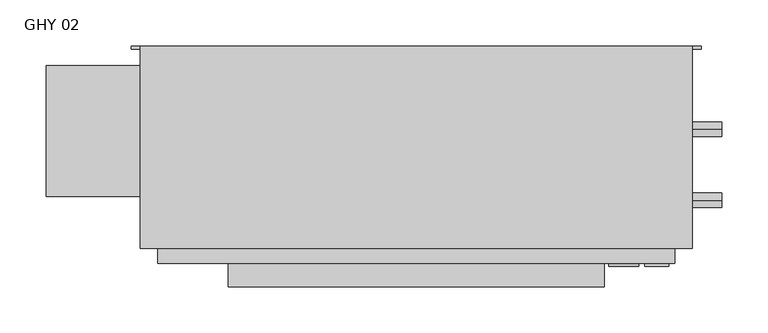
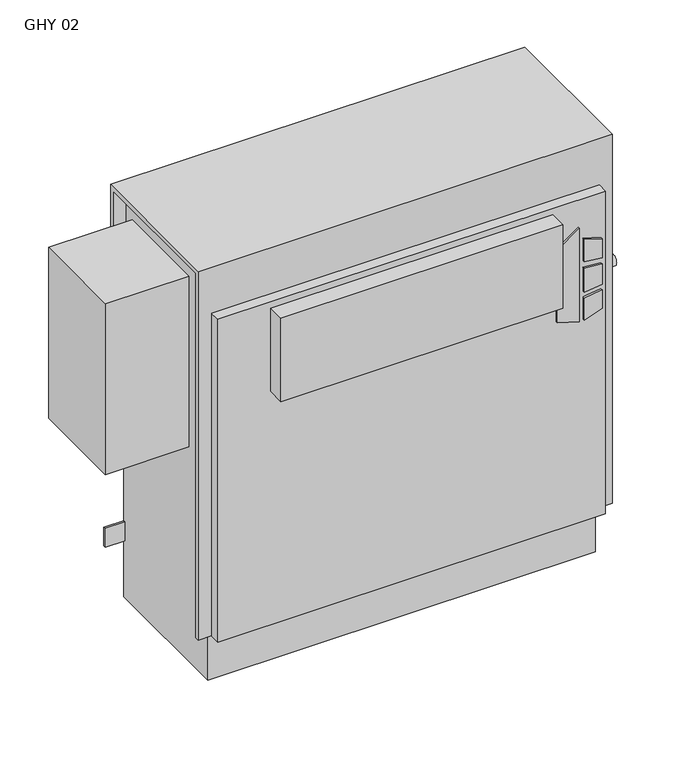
"""IFC4 building model written with IfcOpenShell, lengths in millimetres: proxy geometry, Vertical_Fan_Coil_Unit_-_GHY_-_IEC_-_2-Pipe_FS-FR_RH_2022 : GHY 02."""

from ifc_helpers import new_model, si_unit, point, frame, frame_2d, origin, place, context, project, spatial, polyline, circle_curve, trimmed, segment, composite_curve, outline, extrude, source, transform, mapped, element, save
from ifc_brep_helpers import plane_surface, revolved_surface, advanced_brep


def ghy_02_a7a851d1(model_context):
    return source(origin(), model_context, "Body", "SolidModel", [
        extrude(outline(polyline([(391.6086829, 360.4368862), (381.6606126, 392.6102728), (523.831537, 392.6102728), (500.8095309, 360.4368862), (391.6086829, 360.4368862)])), frame((0.0, 6.35, 0.0), z_axis=(0.0, 1.0, 0.0), x_axis=(0.0, 0.0, 1.0)), (0.0, 0.0, 1.0), 3.175),
        extrude(outline(polyline([(470.6079683, 399.3686058), (467.4055757, 425.45), (496.6344168, 425.45), (504.6988318, 399.3686058), (470.6079683, 399.3686058)])), frame((0.0, 6.35, 0.0), z_axis=(0.0, 1.0, 0.0), x_axis=(0.0, 0.0, 1.0)), (0.0, 0.0, 1.0), 3.175),
        extrude(outline(polyline([(418.7444414, 425.45), (415.0789404, 399.3686058), (381.6606126, 399.3686058), (390.2948498, 425.45), (418.7444414, 425.45)])), frame((0.0, 6.35, 0.0), z_axis=(0.0, 1.0, 0.0), x_axis=(0.0, 0.0, 1.0)), (0.0, 0.0, 1.0), 3.175),
        extrude(outline(polyline([(458.0596028, 425.45), (460.3414292, 399.3686058), (424.4038806, 399.3686058), (427.1451456, 425.45), (458.0596028, 425.45)])), frame((0.0, 6.35, 0.0), z_axis=(0.0, 1.0, 0.0), x_axis=(0.0, 0.0, 1.0)), (0.0, 0.0, 1.0), 3.175),
        extrude(outline(polyline([(355.6, -15.875), (-50.8, -15.875), (-50.8, 9.525), (355.6, 9.525), (355.6, -15.875)])), frame((0.0, 0.0, 428.625), z_axis=(0.0, 0.0, 1.0), x_axis=(1.0, 0.0, 0.0)), (0.0, 0.0, 1.0), 127.0),
        extrude(outline(composite_curve([segment(trimmed(circle_curve(frame_2d((77.597, 401.574)), 7.9375), [point((77.597, 393.6365))], [point((77.597, 409.5115))], False, "CARTESIAN"), True, "CONTINUOUS"), segment(trimmed(circle_curve(frame_2d((77.597, 401.574)), 7.9375), [point((77.597, 409.5115))], [point((77.597, 393.6365))], False, "CARTESIAN"), True, "CONTINUOUS")], self_intersect=False)), frame((431.8, 0.0, 0.0), z_axis=(1.0, 0.0, 0.0), x_axis=(0.0, 1.0, 0.0)), (0.0, 0.0, 1.0), 50.8),
        extrude(outline(composite_curve([segment(trimmed(circle_curve(frame_2d((154.559, 540.512)), 7.9375), [point((154.559, 532.5745))], [point((154.559, 548.4495))], False, "CARTESIAN"), True, "CONTINUOUS"), segment(trimmed(circle_curve(frame_2d((154.559, 540.512)), 7.9375), [point((154.559, 548.4495))], [point((154.559, 532.5745))], False, "CARTESIAN"), True, "CONTINUOUS")], self_intersect=False)), frame((431.8, 0.0, 0.0), z_axis=(1.0, 0.0, 0.0), x_axis=(0.0, 1.0, 0.0)), (0.0, 0.0, 1.0), 50.8),
        extrude(outline(polyline([(-247.65, 223.266), (-127.0, 223.266), (-127.0, 81.534), (-247.65, 81.534), (-247.65, 223.266)])), frame((0.0, 0.0, 327.025), z_axis=(0.0, 0.0, 1.0), x_axis=(1.0, 0.0, 0.0)), (0.0, 0.0, 1.0), 260.35),
        advanced_brep(
        [(450.85, 244.475, 635.0), (-146.05, 244.475, 635.0), (-146.05, 25.4, 635.0), (450.85, 25.4, 635.0), (-127.0, 244.475, 0.0), (431.8, 244.475, 0.0), (431.8, 34.925, 0.0), (-127.0, 34.925, 0.0), (450.85, 244.475, 558.8), (431.8, 244.475, 558.8), (431.8, 244.475, 414.3375), (460.375, 244.475, 414.3375), (460.375, 244.475, 385.7625), (431.8, 244.475, 385.7625), (431.8, 244.475, 287.3375), (460.375, 244.475, 287.3375), (460.375, 244.475, 258.7625), (431.8, 244.475, 258.7625), (431.8, 244.475, 141.2875), (460.375, 244.475, 141.2875), (460.375, 244.475, 112.7125), (431.8, 244.475, 112.7125), (-127.0, 244.475, 87.3125), (-155.575, 244.475, 87.3125), (-155.575, 244.475, 115.8875), (-127.0, 244.475, 115.8875), (-127.0, 244.475, 258.7625), (-155.575, 244.475, 258.7625), (-155.575, 244.475, 287.3375), (-127.0, 244.475, 287.3375), (-127.0, 244.475, 385.7625), (-155.575, 244.475, 385.7625), (-155.575, 244.475, 414.3375), (-127.0, 244.475, 414.3375), (-127.0, 244.475, 558.8), (-146.05, 244.475, 558.8), (450.0626, 244.475, 127.0), (438.9374, 244.475, 127.0), (450.0626, 244.475, 273.05), (438.9374, 244.475, 273.05), (-134.1374, 244.475, 273.05), (-145.2626, 244.475, 273.05), (450.0626, 244.475, 400.05), (438.9374, 244.475, 400.05), (-134.1374, 244.475, 400.05), (-145.2626, 244.475, 400.05), (-146.05, 238.125, 558.8), (-146.05, 238.125, 628.65), (-146.05, 31.75, 628.65), (-146.05, 31.75, 73.025), (-146.05, 25.4, 73.025), (431.8, 9.525, 565.15), (-127.0, 9.525, 565.15), (-127.0, 9.525, 73.025), (431.8, 9.525, 73.025), (450.85, 25.4, 73.025), (450.85, 31.75, 73.025), (450.85, 31.75, 628.65), (450.85, 238.125, 628.65), (450.85, 238.125, 558.8), (-127.0, 25.4, 73.025), (-127.0, 25.4, 565.15), (431.8, 25.4, 565.15), (431.8, 25.4, 73.025), (-127.0, 31.75, 73.025), (-127.0, 34.925, 73.025), (431.8, 34.925, 73.025), (431.8, 31.75, 73.025), (431.8, 241.3, 112.7125), (431.8, 241.3, 141.2875), (431.8, 241.3, 258.7625), (431.8, 241.3, 287.3375), (431.8, 241.3, 385.7625), (431.8, 241.3, 414.3375), (431.8, 238.125, 558.8), (431.8, 238.125, 628.65), (431.8, 31.75, 628.65), (-127.0, 31.75, 628.65), (-127.0, 238.125, 628.65), (-127.0, 238.125, 558.8), (-127.0, 241.3, 414.3375), (-127.0, 241.3, 385.7625), (-127.0, 241.3, 287.3375), (-127.0, 241.3, 258.7625), (-127.0, 241.3, 115.8875), (-127.0, 241.3, 87.3125), (460.375, 241.3, 112.7125), (460.375, 241.3, 141.2875), (438.9374, 241.3, 127.0), (450.0626, 241.3, 127.0), (460.375, 241.3, 258.7625), (460.375, 241.3, 287.3375), (438.9374, 241.3, 273.05), (450.0626, 241.3, 273.05), (460.375, 241.3, 385.7625), (460.375, 241.3, 414.3375), (438.9374, 241.3, 400.05), (450.0626, 241.3, 400.05), (-155.575, 241.3, 115.8875), (-155.575, 241.3, 87.3125), (-155.575, 241.3, 287.3375), (-155.575, 241.3, 258.7625), (-145.2626, 241.3, 273.05), (-134.1374, 241.3, 273.05), (-155.575, 241.3, 414.3375), (-155.575, 241.3, 385.7625), (-145.2626, 241.3, 400.05), (-134.1374, 241.3, 400.05)],
        [
            (0, 1),
            (1, 2),
            (2, 3),
            (3, 0),
            (4, 5),
            (5, 6),
            (6, 7),
            (7, 4),
            (0, 8),
            (8, 9),
            (9, 10),
            (10, 11),
            (11, 12),
            (12, 13),
            (13, 14),
            (14, 15),
            (15, 16),
            (16, 17),
            (17, 18),
            (18, 19),
            (19, 20),
            (20, 21),
            (21, 5),
            (4, 22),
            (22, 23),
            (23, 24),
            (24, 25),
            (25, 26),
            (26, 27),
            (27, 28),
            (28, 29),
            (29, 30),
            (30, 31),
            (31, 32),
            (32, 33),
            (33, 34),
            (34, 35),
            (35, 1),
            (36, 37, circle_curve(frame((444.5, 244.475, 127.0), z_axis=(0.0, -1.0, 0.0), x_axis=(-1.0, 0.0, 0.0)), 5.5626)),
            (37, 36, circle_curve(frame((444.5, 244.475, 127.0), z_axis=(0.0, -1.0, 0.0), x_axis=(-1.0, 0.0, 0.0)), 5.5626)),
            (38, 39, circle_curve(frame((444.5, 244.475, 273.05), z_axis=(0.0, -1.0, 0.0), x_axis=(-1.0, 0.0, 0.0)), 5.5626)),
            (39, 38, circle_curve(frame((444.5, 244.475, 273.05), z_axis=(0.0, -1.0, 0.0), x_axis=(-1.0, 0.0, 0.0)), 5.5626)),
            (40, 41, circle_curve(frame((-139.7, 244.475, 273.05), z_axis=(0.0, -1.0, 0.0), x_axis=(-1.0, 0.0, 0.0)), 5.5626)),
            (41, 40, circle_curve(frame((-139.7, 244.475, 273.05), z_axis=(0.0, -1.0, 0.0), x_axis=(-1.0, 0.0, 0.0)), 5.5626)),
            (42, 43, circle_curve(frame((444.5, 244.475, 400.05), z_axis=(0.0, -1.0, 0.0), x_axis=(-1.0, 0.0, 0.0)), 5.5626)),
            (43, 42, circle_curve(frame((444.5, 244.475, 400.05), z_axis=(0.0, -1.0, 0.0), x_axis=(-1.0, 0.0, 0.0)), 5.5626)),
            (44, 45, circle_curve(frame((-139.7, 244.475, 400.05), z_axis=(0.0, -1.0, 0.0), x_axis=(-1.0, 0.0, 0.0)), 5.5626)),
            (45, 44, circle_curve(frame((-139.7, 244.475, 400.05), z_axis=(0.0, -1.0, 0.0), x_axis=(-1.0, 0.0, 0.0)), 5.5626)),
            (35, 46),
            (46, 47),
            (47, 48),
            (48, 49),
            (49, 50),
            (50, 2),
            (51, 52),
            (52, 53),
            (53, 54),
            (54, 51),
            (3, 55),
            (55, 56),
            (56, 57),
            (57, 58),
            (58, 59),
            (59, 8),
            (50, 60),
            (60, 61),
            (61, 62),
            (62, 63),
            (63, 55),
            (51, 62),
            (61, 52),
            (53, 60),
            (49, 64),
            (64, 65),
            (65, 66),
            (66, 67),
            (67, 56),
            (63, 54),
            (6, 66),
            (65, 7),
            (21, 68),
            (68, 69),
            (69, 18),
            (17, 70),
            (70, 71),
            (71, 14),
            (13, 72),
            (72, 73),
            (73, 10),
            (9, 74),
            (74, 75),
            (75, 76),
            (76, 67),
            (64, 77),
            (77, 78),
            (78, 79),
            (79, 34),
            (33, 80),
            (80, 81),
            (81, 30),
            (29, 82),
            (82, 83),
            (83, 26),
            (25, 84),
            (84, 85),
            (85, 22),
            (74, 59),
            (58, 75),
            (76, 57),
            (48, 77),
            (79, 46),
            (78, 47),
            (68, 86),
            (86, 87),
            (87, 69),
            (88, 89, circle_curve(frame((444.5, 241.3, 127.0), z_axis=(0.0, 1.0, 0.0), x_axis=(-1.0, 0.0, 0.0)), 5.5626)),
            (89, 88, circle_curve(frame((444.5, 241.3, 127.0), z_axis=(0.0, 1.0, 0.0), x_axis=(-1.0, 0.0, 0.0)), 5.5626)),
            (90, 91),
            (91, 71),
            (70, 90),
            (92, 93, circle_curve(frame((444.5, 241.3, 273.05), z_axis=(0.0, 1.0, 0.0), x_axis=(-1.0, 0.0, 0.0)), 5.5626)),
            (93, 92, circle_curve(frame((444.5, 241.3, 273.05), z_axis=(0.0, 1.0, 0.0), x_axis=(-1.0, 0.0, 0.0)), 5.5626)),
            (94, 95),
            (95, 73),
            (72, 94),
            (96, 97, circle_curve(frame((444.5, 241.3, 400.05), z_axis=(0.0, 1.0, 0.0), x_axis=(-1.0, 0.0, 0.0)), 5.5626)),
            (97, 96, circle_curve(frame((444.5, 241.3, 400.05), z_axis=(0.0, 1.0, 0.0), x_axis=(-1.0, 0.0, 0.0)), 5.5626)),
            (98, 99),
            (99, 85),
            (84, 98),
            (82, 100),
            (100, 101),
            (101, 83),
            (102, 103, circle_curve(frame((-139.7, 241.3, 273.05), z_axis=(0.0, 1.0, 0.0), x_axis=(-1.0, 0.0, 0.0)), 5.5626)),
            (103, 102, circle_curve(frame((-139.7, 241.3, 273.05), z_axis=(0.0, 1.0, 0.0), x_axis=(-1.0, 0.0, 0.0)), 5.5626)),
            (104, 105),
            (105, 81),
            (80, 104),
            (106, 107, circle_curve(frame((-139.7, 241.3, 400.05), z_axis=(0.0, 1.0, 0.0), x_axis=(-1.0, 0.0, 0.0)), 5.5626)),
            (107, 106, circle_curve(frame((-139.7, 241.3, 400.05), z_axis=(0.0, 1.0, 0.0), x_axis=(-1.0, 0.0, 0.0)), 5.5626)),
            (87, 19),
            (86, 20),
            (16, 90),
            (91, 15),
            (12, 94),
            (95, 11),
            (24, 98),
            (99, 23),
            (101, 27),
            (100, 28),
            (32, 104),
            (105, 31),
            (88, 37),
            (36, 89),
            (92, 39),
            (38, 93),
            (102, 41),
            (40, 103),
            (96, 43),
            (42, 97),
            (106, 45),
            (44, 107),
        ],
        [
            plane_surface(frame((-146.05, 244.475, 635.0), z_axis=(0.0, 0.0, 1.0), x_axis=(-1.0, 0.0, 0.0))),
            plane_surface(frame((-146.05, 244.475, 0.0), z_axis=(0.0, 0.0, -1.0), x_axis=(1.0, 0.0, 0.0))),
            plane_surface(frame((450.85, 244.475, 635.0), z_axis=(0.0, 1.0, 0.0), x_axis=(0.0, 0.0, -1.0))),
            plane_surface(frame((-146.05, 244.475, 635.0), z_axis=(-1.0, 0.0, 0.0), x_axis=(0.0, 0.0, -1.0))),
            plane_surface(frame((-146.05, 9.525, 635.0), z_axis=(0.0, -1.0, 0.0), x_axis=(0.0, 0.0, -1.0))),
            plane_surface(frame((450.85, 9.525, 635.0), z_axis=(1.0, 0.0, 0.0), x_axis=(0.0, 0.0, -1.0))),
            plane_surface(frame((-146.05, 25.4, 635.0), z_axis=(0.0, -1.0, 0.0), x_axis=(1.0, 0.0, 0.0))),
            plane_surface(frame((-146.05, 25.4, 565.15), z_axis=(0.0, 0.0, 1.0), x_axis=(1.0, 0.0, 0.0))),
            plane_surface(frame((-146.05, 9.525, 73.025), z_axis=(0.0, 0.0, -1.0), x_axis=(1.0, 0.0, 0.0))),
            plane_surface(frame((-146.05, 34.925, 73.025), z_axis=(0.0, -1.0, 0.0), x_axis=(1.0, 0.0, 0.0))),
            plane_surface(frame((431.8, 25.4, 73.025), z_axis=(1.0, 0.0, 0.0), x_axis=(0.0, -1.0, 0.0))),
            plane_surface(frame((-127.0, 25.4, 565.15), z_axis=(-1.0, 0.0, 0.0), x_axis=(0.0, -1.0, 0.0))),
            plane_surface(frame((431.8, 244.475, 0.0), z_axis=(1.0, 0.0, 0.0), x_axis=(0.0, -1.0, 0.0))),
            plane_surface(frame((-127.0, 244.475, 73.025), z_axis=(-1.0, 0.0, 0.0), x_axis=(0.0, -1.0, 0.0))),
            plane_surface(frame((431.8, 238.125, 628.65), z_axis=(0.0, -1.0, 0.0), x_axis=(1.0, 0.0, 0.0))),
            plane_surface(frame((431.8, 238.125, 558.8), z_axis=(0.0, 0.0, -1.0), x_axis=(1.0, 0.0, 0.0))),
            plane_surface(frame((431.8, 31.75, 73.025), z_axis=(0.0, 1.0, 0.0), x_axis=(1.0, 0.0, 0.0))),
            plane_surface(frame((431.8, 31.75, 628.65), z_axis=(0.0, 0.0, -1.0), x_axis=(1.0, 0.0, 0.0))),
            plane_surface(frame((-127.0, 31.75, 628.65), z_axis=(0.0, 1.0, 0.0), x_axis=(-1.0, 0.0, 0.0))),
            plane_surface(frame((-127.0, 244.475, 558.8), z_axis=(0.0, 0.0, -1.0), x_axis=(-1.0, 0.0, 0.0))),
            plane_surface(frame((-127.0, 238.125, 558.8), z_axis=(0.0, -1.0, 0.0), x_axis=(-1.0, 0.0, 0.0))),
            plane_surface(frame((-127.0, 238.125, 628.65), z_axis=(0.0, 0.0, -1.0), x_axis=(-1.0, 0.0, 0.0))),
            plane_surface(frame((460.375, 241.3, 141.2875), z_axis=(0.0, -1.0, 0.0), x_axis=(-1.0, 0.0, 0.0))),
            plane_surface(frame((431.8, 244.475, 141.2875), z_axis=(0.0, 0.0, 1.0), x_axis=(0.0, -1.0, 0.0))),
            plane_surface(frame((460.375, 244.475, 141.2875), z_axis=(1.0, 0.0, 0.0), x_axis=(0.0, -1.0, 0.0))),
            plane_surface(frame((460.375, 244.475, 112.7125), z_axis=(0.0, 0.0, -1.0), x_axis=(0.0, -1.0, 0.0))),
            plane_surface(frame((460.375, 244.475, 258.7625), z_axis=(0.0, 0.0, -1.0), x_axis=(0.0, -1.0, 0.0))),
            plane_surface(frame((431.8, 244.475, 287.3375), z_axis=(0.0, 0.0, 1.0), x_axis=(0.0, -1.0, 0.0))),
            plane_surface(frame((460.375, 244.475, 287.3375), z_axis=(1.0, 0.0, 0.0), x_axis=(0.0, -1.0, 0.0))),
            plane_surface(frame((460.375, 244.475, 385.7625), z_axis=(0.0, 0.0, -1.0), x_axis=(0.0, -1.0, 0.0))),
            plane_surface(frame((431.8, 244.475, 414.3375), z_axis=(0.0, 0.0, 1.0), x_axis=(0.0, -1.0, 0.0))),
            plane_surface(frame((460.375, 244.475, 414.3375), z_axis=(1.0, 0.0, 0.0), x_axis=(0.0, -1.0, 0.0))),
            plane_surface(frame((-155.575, 244.475, 115.8875), z_axis=(0.0, 0.0, 1.0), x_axis=(0.0, -1.0, 0.0))),
            plane_surface(frame((-127.0, 244.475, 87.3125), z_axis=(0.0, 0.0, -1.0), x_axis=(0.0, -1.0, 0.0))),
            plane_surface(frame((-155.575, 244.475, 87.3125), z_axis=(-1.0, 0.0, 0.0), x_axis=(0.0, -1.0, 0.0))),
            plane_surface(frame((-127.0, 244.475, 258.7625), z_axis=(0.0, 0.0, -1.0), x_axis=(0.0, -1.0, 0.0))),
            plane_surface(frame((-155.575, 244.475, 258.7625), z_axis=(-1.0, 0.0, 0.0), x_axis=(0.0, -1.0, 0.0))),
            plane_surface(frame((-155.575, 244.475, 287.3375), z_axis=(0.0, 0.0, 1.0), x_axis=(0.0, -1.0, 0.0))),
            plane_surface(frame((-155.575, 244.475, 414.3375), z_axis=(0.0, 0.0, 1.0), x_axis=(0.0, -1.0, 0.0))),
            plane_surface(frame((-127.0, 244.475, 385.7625), z_axis=(0.0, 0.0, -1.0), x_axis=(0.0, -1.0, 0.0))),
            plane_surface(frame((-155.575, 244.475, 385.7625), z_axis=(-1.0, 0.0, 0.0), x_axis=(0.0, -1.0, 0.0))),
            revolved_surface(polyline([(438.9374, 241.3, 127.0), (438.9374, 244.475, 127.0)]), (444.5, 244.475, 127.0), (0.0, -1.0, 0.0)),
            revolved_surface(polyline([(438.9374, 241.3, 273.05), (438.9374, 244.475, 273.05)]), (444.5, 244.475, 273.05), (0.0, -1.0, 0.0)),
            revolved_surface(polyline([(-145.2626, 241.3, 273.05), (-145.2626, 244.475, 273.05)]), (-139.7, 244.475, 273.05), (0.0, -1.0, 0.0)),
            revolved_surface(polyline([(438.9374, 241.3, 400.05), (438.9374, 244.475, 400.05)]), (444.5, 244.475, 400.05), (0.0, -1.0, 0.0)),
            revolved_surface(polyline([(-145.2626, 241.3, 400.05), (-145.2626, 244.475, 400.05)]), (-139.7, 244.475, 400.05), (0.0, -1.0, 0.0)),
        ],
        [
            (0, [[1, 2, 3, 4]]),
            (1, [[5, 6, 7, 8]]),
            (2, [[-1, 9, 10, 11, 12, 13, 14, 15, 16, 17, 18, 19, 20, 21, 22, 23, -5, 24, 25, 26, 27, 28, 29, 30, 31, 32, 33, 34, 35, 36, 37, 38], [39, 40], [41, 42], [43, 44], [45, 46], [47, 48]]),
            (3, [[-2, -38, 49, 50, 51, 52, 53, 54]]),
            (4, [[55, 56, 57, 58]]),
            (5, [[-4, 59, 60, 61, 62, 63, 64, -9]]),
            (6, [[-3, -54, 65, 66, 67, 68, 69, -59]]),
            (7, [[-55, 70, -67, 71]]),
            (8, [[-57, 72, -65, -53, 73, 74, 75, 76, 77, -60, -69, 78]]),
            (9, [[-7, 79, -75, 80]]),
            (10, [[-68, -70, -58, -78]]),
            (11, [[-66, -72, -56, -71]]),
            (12, [[-6, -23, 81, 82, 83, -19, 84, 85, 86, -15, 87, 88, 89, -11, 90, 91, 92, 93, -76, -79]]),
            (13, [[-8, -80, -74, 94, 95, 96, 97, -36, 98, 99, 100, -32, 101, 102, 103, -28, 104, 105, 106, -24]]),
            (14, [[-91, 107, -63, 108]]),
            (15, [[-90, -10, -64, -107]]),
            (16, [[-93, 109, -61, -77]]),
            (17, [[-92, -108, -62, -109]]),
            (18, [[-94, -73, -52, 110]]),
            (19, [[-97, 111, -49, -37]]),
            (20, [[-96, 112, -50, -111]]),
            (21, [[-95, -110, -51, -112]]),
            (22, [[113, 114, 115, -82], [116, 117]]),
            (22, [[118, 119, -85, 120], [121, 122]]),
            (22, [[123, 124, -88, 125], [126, 127]]),
            (22, [[128, 129, -105, 130]]),
            (22, [[131, 132, 133, -102], [134, 135]]),
            (22, [[136, 137, -99, 138], [139, 140]]),
            (23, [[-115, 141, -20, -83]]),
            (24, [[-114, 142, -21, -141]]),
            (25, [[-113, -81, -22, -142]]),
            (26, [[-120, -84, -18, 143]]),
            (27, [[-119, 144, -16, -86]]),
            (28, [[-118, -143, -17, -144]]),
            (29, [[-125, -87, -14, 145]]),
            (30, [[-124, 146, -12, -89]]),
            (31, [[-123, -145, -13, -146]]),
            (32, [[-130, -104, -27, 147]]),
            (33, [[-129, 148, -25, -106]]),
            (34, [[-128, -147, -26, -148]]),
            (35, [[-133, 149, -29, -103]]),
            (36, [[-132, 150, -30, -149]]),
            (37, [[-131, -101, -31, -150]]),
            (38, [[-138, -98, -35, 151]]),
            (39, [[-137, 152, -33, -100]]),
            (40, [[-136, -151, -34, -152]]),
            (41, [[153, -39, 154, -116]]),
            (41, [[-153, -117, -154, -40]]),
            (42, [[155, -41, 156, -121]]),
            (42, [[-155, -122, -156, -42]]),
            (43, [[157, -43, 158, -134]]),
            (43, [[-157, -135, -158, -44]]),
            (44, [[159, -45, 160, -126]]),
            (44, [[-159, -127, -160, -46]]),
            (45, [[161, -47, 162, -139]]),
            (45, [[-161, -140, -162, -48]]),
        ],
    ),
    ])


if __name__ == "__main__":
    model = new_model("IFC4")
    model_context = context("Model", 3, world=origin())
    ifc_project = project(units=[si_unit("LENGTHUNIT", "METRE", prefix="MILLI")], contexts=[model_context])
    site = spatial("IfcSite", under=ifc_project)
    building = spatial("IfcBuilding", under=site)
    placement = place(None, origin())
    ghy_02_shape = ghy_02_a7a851d1(model_context)
    element("IfcBuildingElementProxy", 1, Name="Vertical_Fan_Coil_Unit_-_GHY_-_IEC_-_2-Pipe_FS-FR_RH_2022 : GHY 02", ObjectType="Vertical_Fan_Coil_Unit_-_GHY_-_IEC_-_2-Pipe_FS-FR_RH_2022 : GHY 02", at=placement, inside=building, context=model_context, shape_type="MappedRepresentation", body=[
        mapped(ghy_02_shape, transform((0.0, 0.0, 0.0), x_axis=(1.0, 0.0, 0.0), y_axis=(0.0, 1.0, 0.0), z_axis=(0.0, 0.0, 1.0))),
    ])
    save(model, "model.ifc")
